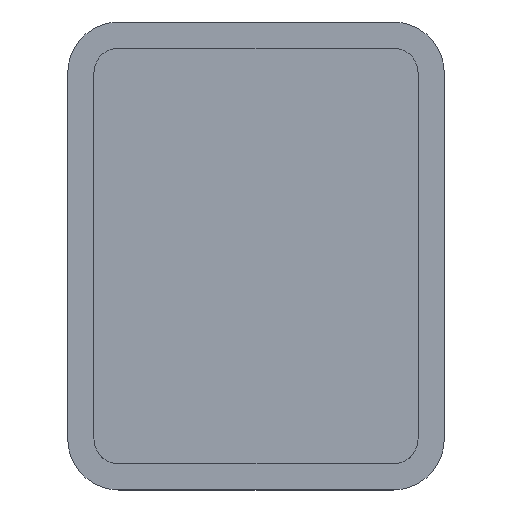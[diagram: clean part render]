
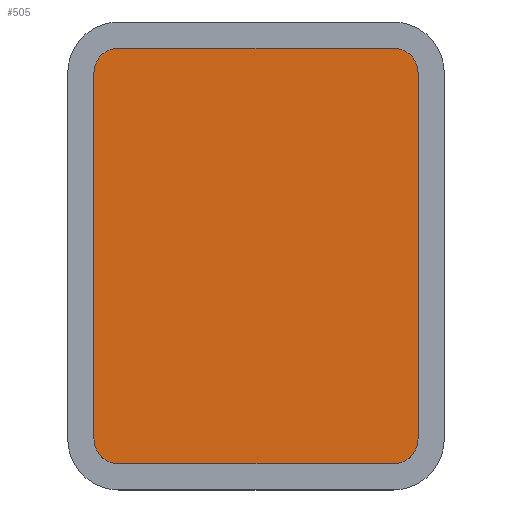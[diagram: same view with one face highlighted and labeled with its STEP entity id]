
A CAD part, top view. The second image highlights one B-rep face of the part: STEP entity #505.
In plain terms, the highlighted planar face has unit normal (0, 0, 1).
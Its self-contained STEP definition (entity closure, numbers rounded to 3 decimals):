
#3 = AXIS2_PLACEMENT_3D ( 'NONE', #376, #658, #16 ) ;
#6 = DIRECTION ( 'NONE',  ( 0., 0., 1. ) ) ;
#16 = DIRECTION ( 'NONE',  ( 1., 0., 0. ) ) ;
#17 = EDGE_CURVE ( 'NONE', #516, #481, #500, .T. ) ;
#26 = CARTESIAN_POINT ( 'NONE',  ( -12.4, -14., 1. ) ) ;
#86 = PLANE ( 'NONE',  #3 ) ;
#91 = EDGE_CURVE ( 'NONE', #351, #516, #212, .T. ) ;
#94 = DIRECTION ( 'NONE',  ( 1., 0., 0. ) ) ;
#102 = CARTESIAN_POINT ( 'NONE',  ( 12.4, -14., 1. ) ) ;
#105 = DIRECTION ( 'NONE',  ( 1., 0., 0. ) ) ;
#120 = VERTEX_POINT ( 'NONE', #425 ) ;
#121 = CARTESIAN_POINT ( 'NONE',  ( -10.5, -14., 1. ) ) ;
#130 = ORIENTED_EDGE ( 'NONE', *, *, #142, .T. ) ;
#138 = DIRECTION ( 'NONE',  ( -1., 0., 0. ) ) ;
#142 = EDGE_CURVE ( 'NONE', #145, #351, #174, .T. ) ;
#145 = VERTEX_POINT ( 'NONE', #102 ) ;
#174 = LINE ( 'NONE', #466, #540 ) ;
#195 = DIRECTION ( 'NONE',  ( 0., 0., 1. ) ) ;
#196 = LINE ( 'NONE', #492, #710 ) ;
#211 = VECTOR ( 'NONE', #94, 1000. ) ;
#212 = CIRCLE ( 'NONE', #735, 1.9 ) ;
#227 = AXIS2_PLACEMENT_3D ( 'NONE', #121, #413, #694 ) ;
#259 = ORIENTED_EDGE ( 'NONE', *, *, #666, .T. ) ;
#277 = CARTESIAN_POINT ( 'NONE',  ( 12.4, 14., 1. ) ) ;
#279 = EDGE_CURVE ( 'NONE', #721, #536, #628, .T. ) ;
#296 = DIRECTION ( 'NONE',  ( 1., 0., 0. ) ) ;
#307 = CARTESIAN_POINT ( 'NONE',  ( 10.5, 15.9, 1. ) ) ;
#334 = EDGE_CURVE ( 'NONE', #544, #721, #196, .T. ) ;
#351 = VERTEX_POINT ( 'NONE', #277 ) ;
#356 = AXIS2_PLACEMENT_3D ( 'NONE', #469, #742, #105 ) ;
#357 = AXIS2_PLACEMENT_3D ( 'NONE', #647, #6, #296 ) ;
#376 = CARTESIAN_POINT ( 'NONE',  ( -10.5, 14., 1. ) ) ;
#413 = DIRECTION ( 'NONE',  ( 0., 0., 1. ) ) ;
#425 = CARTESIAN_POINT ( 'NONE',  ( 10.5, -15.9, 1. ) ) ;
#438 = CARTESIAN_POINT ( 'NONE',  ( -10.5, -15.9, 1. ) ) ;
#456 = LINE ( 'NONE', #730, #211 ) ;
#466 = CARTESIAN_POINT ( 'NONE',  ( 12.4, -14., 1. ) ) ;
#469 = CARTESIAN_POINT ( 'NONE',  ( 10.5, -14., 1. ) ) ;
#481 = VERTEX_POINT ( 'NONE', #718 ) ;
#490 = DIRECTION ( 'NONE',  ( 1., 0., 0. ) ) ;
#492 = CARTESIAN_POINT ( 'NONE',  ( -12.4, 14., 1. ) ) ;
#500 = LINE ( 'NONE', #775, #872 ) ;
#505 = ADVANCED_FACE ( 'NONE', ( #726 ), #86, .T. ) ;
#511 = ORIENTED_EDGE ( 'NONE', *, *, #555, .T. ) ;
#516 = VERTEX_POINT ( 'NONE', #307 ) ;
#536 = VERTEX_POINT ( 'NONE', #438 ) ;
#540 = VECTOR ( 'NONE', #740, 1000. ) ;
#544 = VERTEX_POINT ( 'NONE', #713 ) ;
#551 = ORIENTED_EDGE ( 'NONE', *, *, #334, .T. ) ;
#555 = EDGE_CURVE ( 'NONE', #481, #544, #757, .T. ) ;
#573 = EDGE_LOOP ( 'NONE', ( #511, #551, #857, #259, #896, #130, #677, #712 ) ) ;
#628 = CIRCLE ( 'NONE', #227, 1.9 ) ;
#647 = CARTESIAN_POINT ( 'NONE',  ( -10.5, 14., 1. ) ) ;
#658 = DIRECTION ( 'NONE',  ( 0., 0., 1. ) ) ;
#666 = EDGE_CURVE ( 'NONE', #536, #120, #456, .T. ) ;
#677 = ORIENTED_EDGE ( 'NONE', *, *, #91, .T. ) ;
#694 = DIRECTION ( 'NONE',  ( 1., 0., 0. ) ) ;
#710 = VECTOR ( 'NONE', #769, 1000. ) ;
#712 = ORIENTED_EDGE ( 'NONE', *, *, #17, .T. ) ;
#713 = CARTESIAN_POINT ( 'NONE',  ( -12.4, 14., 1. ) ) ;
#718 = CARTESIAN_POINT ( 'NONE',  ( -10.5, 15.9, 1. ) ) ;
#721 = VERTEX_POINT ( 'NONE', #26 ) ;
#726 = FACE_OUTER_BOUND ( 'NONE', #573, .T. ) ;
#730 = CARTESIAN_POINT ( 'NONE',  ( -10.5, -15.9, 1. ) ) ;
#735 = AXIS2_PLACEMENT_3D ( 'NONE', #838, #195, #490 ) ;
#740 = DIRECTION ( 'NONE',  ( 0., 1., 0. ) ) ;
#742 = DIRECTION ( 'NONE',  ( 0., 0., 1. ) ) ;
#756 = CIRCLE ( 'NONE', #356, 1.9 ) ;
#757 = CIRCLE ( 'NONE', #357, 1.9 ) ;
#769 = DIRECTION ( 'NONE',  ( 0., -1., 0. ) ) ;
#775 = CARTESIAN_POINT ( 'NONE',  ( 10.5, 15.9, 1. ) ) ;
#805 = EDGE_CURVE ( 'NONE', #120, #145, #756, .T. ) ;
#838 = CARTESIAN_POINT ( 'NONE',  ( 10.5, 14., 1. ) ) ;
#857 = ORIENTED_EDGE ( 'NONE', *, *, #279, .T. ) ;
#872 = VECTOR ( 'NONE', #138, 1000. ) ;
#896 = ORIENTED_EDGE ( 'NONE', *, *, #805, .T. ) ;
